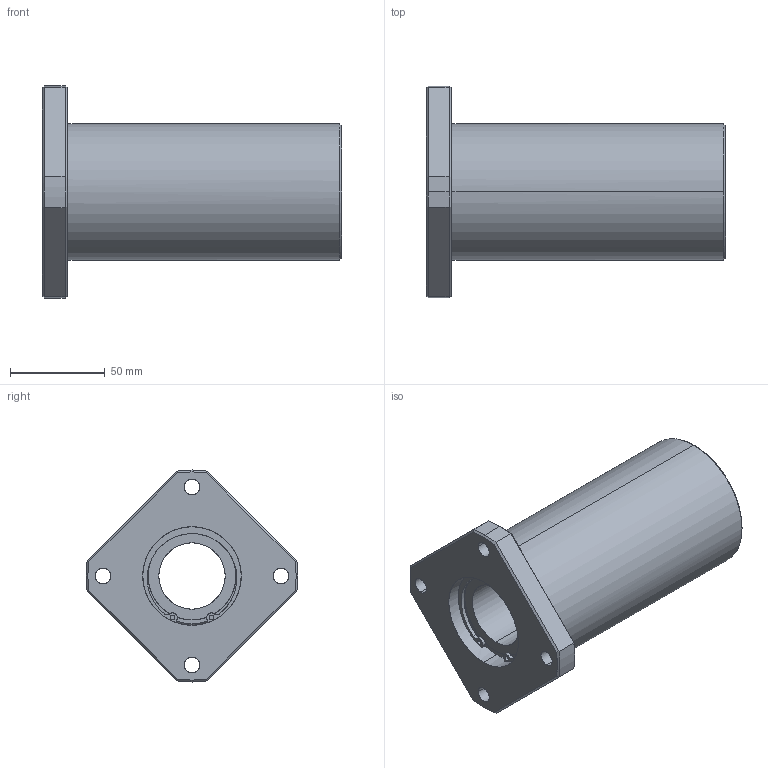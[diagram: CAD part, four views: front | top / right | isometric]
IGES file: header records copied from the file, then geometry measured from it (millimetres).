
Global section: file name: No Iges File Name specified; native system: AutoDesk Inventor R10; preprocessor: AutoDesk Inventor Iges Exporter R10; author: No Author specified; organization: No Organization specified; date: 20101214.135914; units: millimetre
Bounding box: 158 x 111.86 x 112 mm (x, y, z)
Surface area: 78083 mm2 (no closed solid volume)
Topology: 0 solids, 0 shells, 143 faces, 974 edges, 974 vertices
Faces by surface type: bspline 143
